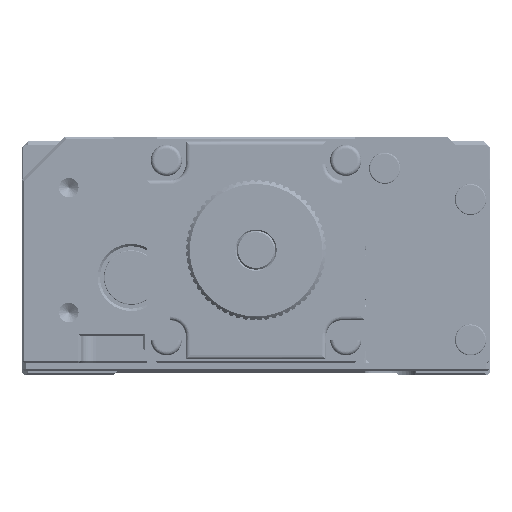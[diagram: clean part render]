
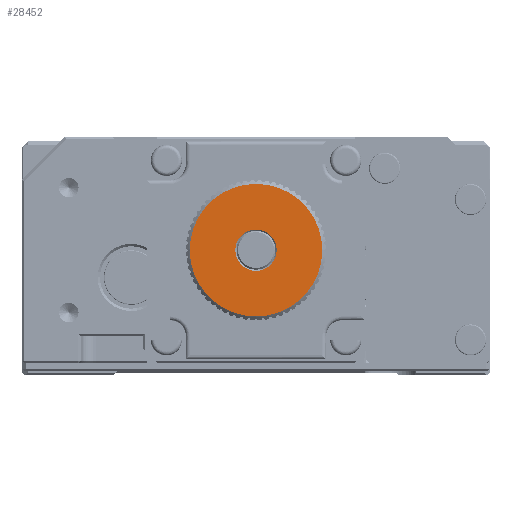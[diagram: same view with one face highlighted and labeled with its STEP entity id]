
A CAD part, front view. The second image highlights one B-rep face of the part: STEP entity #28452.
In plain terms, the highlighted planar face has unit normal (0, -1, 0).
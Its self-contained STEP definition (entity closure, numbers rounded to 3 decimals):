
#359 = ORIENTED_EDGE ( 'NONE', *, *, #59576, .T. ) ;
#690 = DIRECTION ( 'NONE',  ( 1., 0., 0. ) ) ;
#1795 = DIRECTION ( 'NONE',  ( 0., 1., 0. ) ) ;
#5676 = DIRECTION ( 'NONE',  ( 0., 1., 0. ) ) ;
#8654 = DIRECTION ( 'NONE',  ( 1., 0., 0. ) ) ;
#12415 = VERTEX_POINT ( 'NONE', #74051 ) ;
#22088 = CIRCLE ( 'NONE', #158338, 8.5 ) ;
#22398 = CARTESIAN_POINT ( 'NONE',  ( 0., -251.62, -4.027 ) ) ;
#23808 = FACE_OUTER_BOUND ( 'NONE', #62395, .T. ) ;
#25627 = CIRCLE ( 'NONE', #72338, 8.5 ) ;
#28452 = ADVANCED_FACE ( 'NONE', ( #109226, #23808 ), #177784, .T. ) ;
#34159 = DIRECTION ( 'NONE',  ( 0., -1., 0. ) ) ;
#35383 = CARTESIAN_POINT ( 'NONE',  ( 0., -251.62, -4.027 ) ) ;
#42231 = CARTESIAN_POINT ( 'NONE',  ( 0., -251.62, -4.027 ) ) ;
#47449 = CIRCLE ( 'NONE', #205686, 2.65 ) ;
#53223 = CARTESIAN_POINT ( 'NONE',  ( 0., -251.62, -4.027 ) ) ;
#59108 = DIRECTION ( 'NONE',  ( 0., -1., 0. ) ) ;
#59576 = EDGE_CURVE ( 'NONE', #158520, #197373, #25627, .T. ) ;
#62395 = EDGE_LOOP ( 'NONE', ( #204923, #359 ) ) ;
#68963 = DIRECTION ( 'NONE',  ( 1., 0., 0. ) ) ;
#72338 = AXIS2_PLACEMENT_3D ( 'NONE', #42231, #59108, #8654 ) ;
#74051 = CARTESIAN_POINT ( 'NONE',  ( -2.65, -251.62, -4.027 ) ) ;
#75542 = DIRECTION ( 'NONE',  ( 0., -1., 0. ) ) ;
#79667 = CARTESIAN_POINT ( 'NONE',  ( 2.65, -251.62, -4.027 ) ) ;
#97171 = CARTESIAN_POINT ( 'NONE',  ( -8.5, -251.62, -4.027 ) ) ;
#98088 = EDGE_CURVE ( 'NONE', #197373, #158520, #22088, .T. ) ;
#98347 = EDGE_LOOP ( 'NONE', ( #204928, #121651 ) ) ;
#104697 = EDGE_CURVE ( 'NONE', #190702, #12415, #47449, .T. ) ;
#109226 = FACE_BOUND ( 'NONE', #98347, .T. ) ;
#115876 = AXIS2_PLACEMENT_3D ( 'NONE', #22398, #5676, #144698 ) ;
#121651 = ORIENTED_EDGE ( 'NONE', *, *, #174909, .T. ) ;
#124900 = CARTESIAN_POINT ( 'NONE',  ( 0., -251.62, -4.027 ) ) ;
#128624 = CARTESIAN_POINT ( 'NONE',  ( 8.5, -251.62, -4.027 ) ) ;
#144459 = AXIS2_PLACEMENT_3D ( 'NONE', #124900, #75542, #193494 ) ;
#144698 = DIRECTION ( 'NONE',  ( 1., 0., 0. ) ) ;
#158338 = AXIS2_PLACEMENT_3D ( 'NONE', #53223, #34159, #68963 ) ;
#158520 = VERTEX_POINT ( 'NONE', #128624 ) ;
#174909 = EDGE_CURVE ( 'NONE', #12415, #190702, #205520, .T. ) ;
#177784 = PLANE ( 'NONE',  #144459 ) ;
#190702 = VERTEX_POINT ( 'NONE', #79667 ) ;
#193494 = DIRECTION ( 'NONE',  ( 1., 0., 0. ) ) ;
#197373 = VERTEX_POINT ( 'NONE', #97171 ) ;
#204923 = ORIENTED_EDGE ( 'NONE', *, *, #98088, .T. ) ;
#204928 = ORIENTED_EDGE ( 'NONE', *, *, #104697, .T. ) ;
#205520 = CIRCLE ( 'NONE', #115876, 2.65 ) ;
#205686 = AXIS2_PLACEMENT_3D ( 'NONE', #35383, #1795, #690 ) ;
